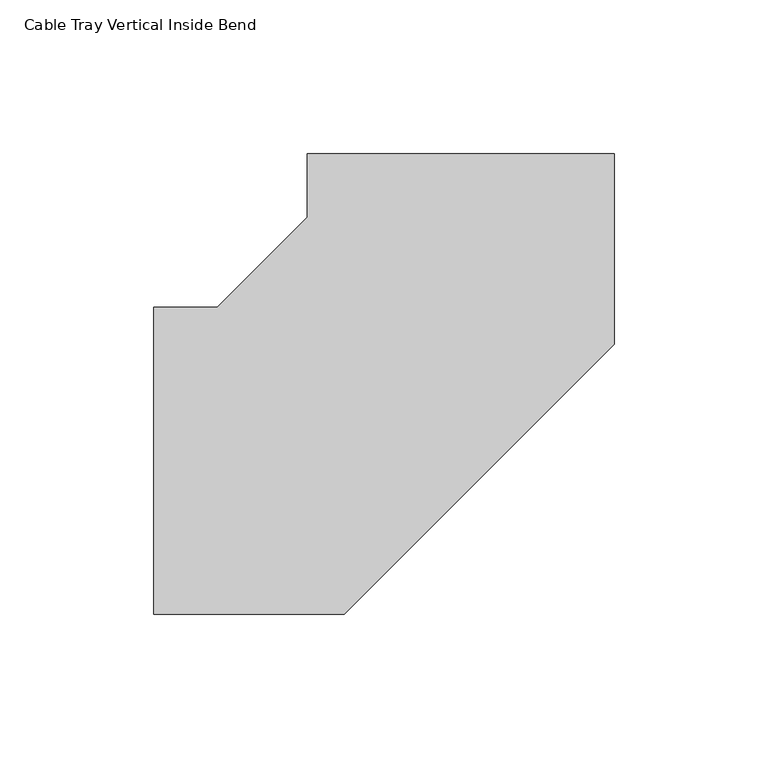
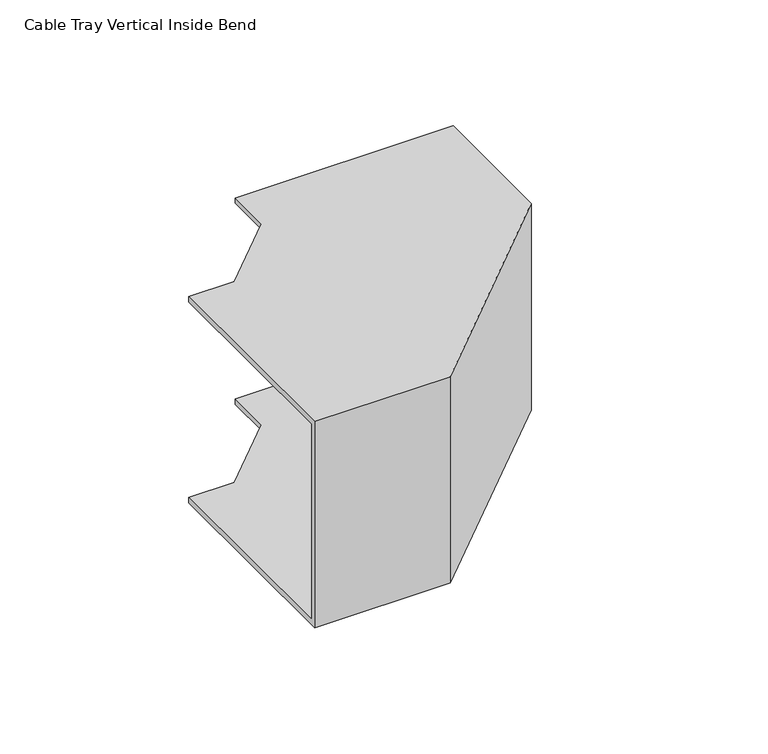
"""IFC4 building model written with IfcOpenShell, lengths in millimetres: cable carrier fitting geometry, Cable Tray Vertical Inside Bend : ELEC_ELV_TKG_N2402."""

from ifc_helpers import new_model, si_unit, origin, place, context, project, spatial, faceted_brep, source, transform, mapped, element, save


def cable_tray_vertical_inside_bend_db0dc6e9(model_context):
    return source(origin(), model_context, "Body", "Brep", [
        faceted_brep([(-99.9955249, 50.0, 50.0), (-99.9955249, 50.0, 47.46), (-99.9955249, -47.46, 47.46), (-99.9955249, -47.46, -47.46), (-99.9955249, 50.0, -47.46), (-99.9955249, 50.0, -50.0), (-99.9955249, -50.0, -50.0), (-99.9955249, -50.0, 50.0), (-49.9955249, 99.9977624, 50.0), (50.004475, 99.9932872, 50.0), (50.004475, 99.9932872, -50.0), (-49.9955249, 99.9977624, -50.0), (-49.9955249, 99.9977624, -47.46), (47.464475, 99.9934009, -47.46), (47.464475, 99.9934009, 47.46), (-49.9955249, 99.9977624, 47.46), (-79.2855022, 50.0, 50.0), (-79.2855022, 50.0, 47.46), (-49.9964518, 79.2877397, 47.46), (47.4617416, 38.9154018, 47.46), (-38.9175258, -47.46, 47.46), (-38.9175258, -47.46, -47.46), (47.4617416, 38.9154018, -47.46), (-49.9964518, 79.2877397, -47.46), (-79.2855022, 50.0, -47.46), (-79.2855022, 50.0, -50.0), (-49.9964518, 79.2877397, -50.0), (50.0016945, 37.863219, -50.0), (-37.8654567, -50.0, -50.0), (-37.8654567, -50.0, 50.0), (50.0016945, 37.863219, 50.0), (-49.9964518, 79.2877397, 50.0)], [[[0, 1, 2, 3, 4, 5, 6, 7]], [[8, 9, 10, 11, 12, 13, 14, 15]], [[1, 0, 16, 17]], [[2, 1, 17, 18, 15, 14, 19, 20]], [[3, 2, 20, 21]], [[4, 3, 21, 22, 13, 12, 23, 24]], [[5, 4, 24, 25]], [[6, 5, 25, 26, 11, 10, 27, 28]], [[7, 6, 28, 29]], [[0, 7, 29, 30, 9, 8, 31, 16]], [[17, 16, 31, 18]], [[21, 20, 19, 22]], [[25, 24, 23, 26]], [[29, 28, 27, 30]], [[18, 31, 8, 15]], [[22, 19, 14, 13]], [[26, 23, 12, 11]], [[30, 27, 10, 9]]]),
    ])


if __name__ == "__main__":
    model = new_model("IFC4")
    model_context = context("Model", 3, world=origin())
    ifc_project = project(units=[si_unit("LENGTHUNIT", "METRE", prefix="MILLI")], contexts=[model_context])
    site = spatial("IfcSite", under=ifc_project)
    building = spatial("IfcBuilding", under=site)
    placement = place(None, origin())
    cable_tray_vertical_inside_bend_shape = cable_tray_vertical_inside_bend_db0dc6e9(model_context)
    element("IfcCableCarrierFitting", 1, ObjectType="Cable Tray Vertical Inside Bend : ELEC_ELV_TKG_N2402", at=placement, inside=building, context=model_context, shape_type="MappedRepresentation", body=[
        mapped(cable_tray_vertical_inside_bend_shape, transform((0.0, 0.0, 0.0), x_axis=(1.0, 0.0, 0.0), y_axis=(0.0, 1.0, 0.0), z_axis=(0.0, 0.0, 1.0))),
    ])
    save(model, "model.ifc")
